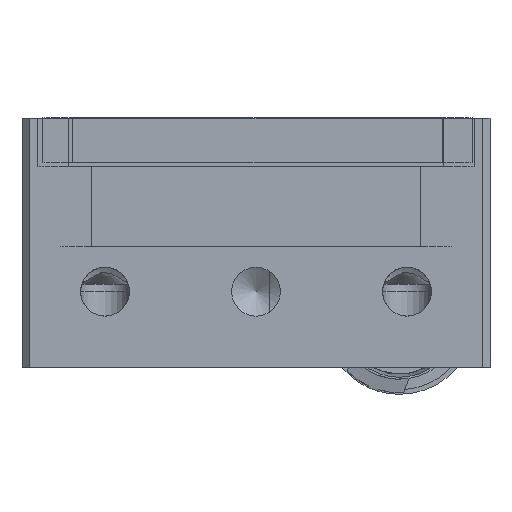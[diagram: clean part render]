
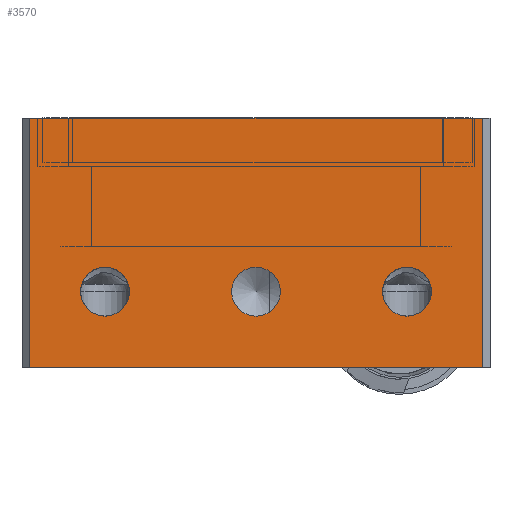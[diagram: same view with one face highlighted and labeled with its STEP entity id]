
A CAD part, front view. The second image highlights one B-rep face of the part: STEP entity #3570.
In plain terms, the highlighted planar face has unit normal (0, -1, 0).
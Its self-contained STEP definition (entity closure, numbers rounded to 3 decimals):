
#302=CIRCLE('',#5278,1.621);
#306=CIRCLE('',#5288,1.621);
#310=CIRCLE('',#5301,1.621);
#1166=ORIENTED_EDGE('',*,*,#1592,.T.);
#1167=ORIENTED_EDGE('',*,*,#1601,.T.);
#1168=ORIENTED_EDGE('',*,*,#1585,.T.);
#1169=ORIENTED_EDGE('',*,*,#1788,.F.);
#1170=ORIENTED_EDGE('',*,*,#1789,.T.);
#1171=ORIENTED_EDGE('',*,*,#1790,.T.);
#1172=ORIENTED_EDGE('',*,*,#1791,.T.);
#1585=EDGE_CURVE('',#2028,#2028,#302,.T.);
#1592=EDGE_CURVE('',#2033,#2033,#306,.T.);
#1601=EDGE_CURVE('',#2038,#2038,#310,.T.);
#1788=EDGE_CURVE('',#2163,#2164,#2398,.T.);
#1789=EDGE_CURVE('',#2163,#2165,#2399,.T.);
#1790=EDGE_CURVE('',#2165,#2166,#2400,.T.);
#1791=EDGE_CURVE('',#2166,#2164,#2401,.T.);
#2028=VERTEX_POINT('',#7729);
#2033=VERTEX_POINT('',#7744);
#2038=VERTEX_POINT('',#7762);
#2163=VERTEX_POINT('',#8313);
#2164=VERTEX_POINT('',#8314);
#2165=VERTEX_POINT('',#8316);
#2166=VERTEX_POINT('',#8318);
#2398=LINE('',#8312,#2638);
#2399=LINE('',#8315,#2639);
#2400=LINE('',#8317,#2640);
#2401=LINE('',#8319,#2641);
#2638=VECTOR('',#6390,1000.);
#2639=VECTOR('',#6391,1000.);
#2640=VECTOR('',#6392,1000.);
#2641=VECTOR('',#6393,1000.);
#2932=EDGE_LOOP('',(#1166));
#2933=EDGE_LOOP('',(#1167));
#2934=EDGE_LOOP('',(#1168));
#2935=EDGE_LOOP('',(#1169,#1170,#1171,#1172));
#3232=FACE_BOUND('',#2932,.T.);
#3233=FACE_BOUND('',#2933,.T.);
#3234=FACE_BOUND('',#2934,.T.);
#3235=FACE_BOUND('',#2935,.T.);
#3368=PLANE('',#5436);
#3570=ADVANCED_FACE('',(#3232,#3233,#3234,#3235),#3368,.F.);
#5278=AXIS2_PLACEMENT_3D('',#7728,#5974,#5975);
#5288=AXIS2_PLACEMENT_3D('',#7743,#5994,#5995);
#5301=AXIS2_PLACEMENT_3D('',#7761,#6020,#6021);
#5436=AXIS2_PLACEMENT_3D('',#8311,#6388,#6389);
#5974=DIRECTION('',(0.,1.,0.));
#5975=DIRECTION('',(0.,0.,-1.));
#5994=DIRECTION('',(0.,1.,0.));
#5995=DIRECTION('',(0.,0.,-1.));
#6020=DIRECTION('',(0.,1.,0.));
#6021=DIRECTION('',(0.,0.,-1.));
#6388=DIRECTION('',(0.,1.,0.));
#6389=DIRECTION('',(0.,0.,1.));
#6390=DIRECTION('',(-1.,0.,0.));
#6391=DIRECTION('',(0.,0.,1.));
#6392=DIRECTION('',(-1.,0.,0.));
#6393=DIRECTION('',(0.,0.,-1.));
#7728=CARTESIAN_POINT('',(0.,-503.5,-11.5));
#7729=CARTESIAN_POINT('',(0.,-503.5,-13.121));
#7743=CARTESIAN_POINT('',(-10.,-503.5,-11.5));
#7744=CARTESIAN_POINT('',(-10.,-503.5,-13.121));
#7761=CARTESIAN_POINT('',(10.,-503.5,-11.5));
#7762=CARTESIAN_POINT('',(10.,-503.5,-13.121));
#8311=CARTESIAN_POINT('',(15.5,-503.5,-16.5));
#8312=CARTESIAN_POINT('',(15.5,-503.5,-16.5));
#8313=CARTESIAN_POINT('',(15.,-503.5,-16.5));
#8314=CARTESIAN_POINT('',(-15.,-503.5,-16.5));
#8315=CARTESIAN_POINT('',(15.,-503.5,-16.5));
#8316=CARTESIAN_POINT('',(15.,-503.5,0.));
#8317=CARTESIAN_POINT('',(15.5,-503.5,0.));
#8318=CARTESIAN_POINT('',(-15.,-503.5,0.));
#8319=CARTESIAN_POINT('',(-15.,-503.5,-16.5));
